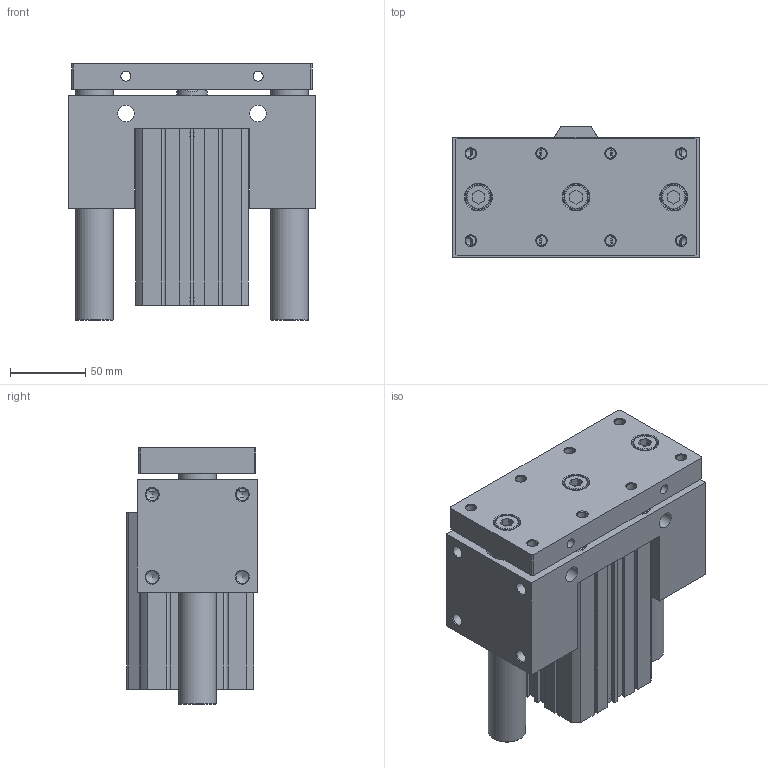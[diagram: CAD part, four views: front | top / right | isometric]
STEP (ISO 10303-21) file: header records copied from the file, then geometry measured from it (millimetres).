
FILE_DESCRIPTION((''),'2;1');
FILE_NAME('I:\3D電子目錄\氣缸\JCB\JCB\JCB63-S\JCB63x75-S.stp','2007-09-01T15:32:05',('Administrator'),(''),'Autodesk Inventor 11','Autodesk Inventor 11','');
FILE_SCHEMA(('AUTOMOTIVE_DESIGN { 1 0 10303 214 1 1 1 1 }'));
Length unit declared in the file: millimetre
Products named in the file (1): JCB63
Bounding box: 164 x 87 x 170.5 mm (x, y, z)
Volume: 1507397.2 mm3; surface area: 226008.7 mm2
Topology: 3 solids, 5 shells, 343 faces, 829 edges, 538 vertices
Faces by surface type: plane 186, cylinder 62, cone 47, bspline 40, torus 8
Full cylindrical faces by diameter (mm): 3 x2, 6.8 x4, 8.376 x4, 11 x8, 13 x4, 14 x4, 16 x3, 17.5 x3, 20 x1, 21 x1, 25 x2, 28 x2, 40 x1, 47 x1, 65 x4, 68 x2
Entity records: 10008 total; most frequent: CARTESIAN_POINT 2670, DIRECTION 1474, ORIENTED_EDGE 1320, EDGE_CURVE 660, EDGE_LOOP 554, AXIS2_PLACEMENT_3D 532, VERTEX_POINT 498, VECTOR 410
